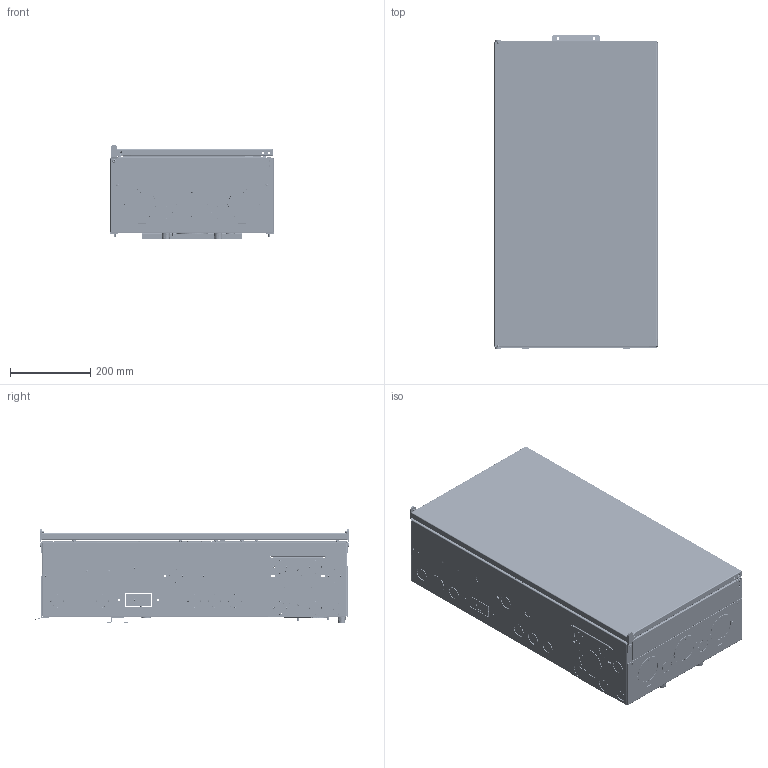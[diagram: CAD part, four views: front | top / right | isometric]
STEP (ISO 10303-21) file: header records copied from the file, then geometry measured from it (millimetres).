
FILE_DESCRIPTION (( 'STEP AP203' ), '1' );
FILE_NAME ('PDP (WHT) 100-2010-01-01.STEP', '2014-06-13T17:10:02', ( '' ), ( '' ), 'SwSTEP 2.0', 'SolidWorks 2013', '' );
FILE_SCHEMA (( 'CONFIG_CONTROL_DESIGN' ));
Length unit declared in the file: millimetre
Products named in the file (46): 061-0036-01_FW 0.19; 100-0659-01-01_100-0659-01-01; 066-0226-04; 210-0572-02-01; 060-0153-01; 210-0854-01-01; 060-6001-04; 210-0794-01-01; 210-0562-01-01; 210-0571-02-01; 20-5204-00; 210-0564-02-01; 100-1185-01-01; 100-0662-01-01; PDP (WHT) 100-2010-01-01; 060-0152-01_CR-FHM1 0.164-32x0.5x0.5-N; 210-0567-02-01; 210-0570-02-01; 210-4229-01-01; 210-2240-01-01; 100-0653-02-01; 210-0970-02-01; 220-2226-01-01_stretched; 3097_off; 230-1007-01-02-5; 210-0791-02-01; 210-0790-02-01; 414-0002-01-01; 3097; 210-2239-01-01; 042-9011-05; 20-6240-00; 210-0805-01-01; 390-0014-01-01; 060-2008-01_CR-PHMS 0.19-24x0.375x0.375-N; 060-0130-05_CR-PHMS 0.19-32x0.25x0.25-N; 20-5205-00; 100-2008-01-01; 395-0001-01-01; 210-0569-02-01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
Assembly tree (122 placements, depth 3):
  PDP (WHT) 100-2010-01-01
    100-2008-01-01
      210-0567-02-01
      210-0970-02-01
      210-0790-02-01
      20-6240-00  x12
    100-0653-02-01
      210-0566-02-01
      210-0572-02-01
      210-0571-02-01
      060-0152-01_CR-FHM1 0.164-32x0.5x0.5-N  x4
    100-0658-01-01_100-0658-01-01  x2
      210-0791-02-01
      042-9011-05
      060-0130-05_CR-PHMS 0.19-32x0.25x0.25-N
    100-0659-01-01_100-0659-01-01  x2
      210-0791-02-01
      042-9011-05
      060-0130-05_CR-PHMS 0.19-32x0.25x0.25-N
    100-0662-01-01
      210-0794-01-01
      042-9011-05  x3
      060-0130-05_CR-PHMS 0.19-32x0.25x0.25-N  x3
    100-1185-01-01
      210-2240-01-01
      230-1007-01-02-5  x4
      210-2239-01-01
      060-2008-01_CR-PHMS 0.19-24x0.375x0.375-N  x4
      062-0034-01_MSHXNUT 0.190-32-S-N  x6
      061-0036-01_FW 0.19  x2
      060-6001-04
    210-4229-01-01  x2
    3097_off  x2
    3097
    390-0014-01-01
    210-0569-02-01
    210-0568-02-01
    210-0854-01-01
    210-0564-02-01
    210-0570-02-01  x2
    220-2226-01-01_stretched
    414-0002-01-01
    210-0805-01-01
    395-0001-01-01
    370-0001-01-01
    20-6240-00  x4
    061-0036-01_FW 0.19  x2
    060-0153-01  x2
    20-5204-00  x2
    20-5205-00  x2
    060-0086-04_CR-PHMS 0.19-32x0.625x0.625-N  x2
    062-0034-01_MSHXNUT 0.190-32-S-N  x6
    060-2008-01_CR-PHMS 0.19-24x0.375x0.375-N  x17
    066-0226-04  x2
    210-0562-01-01
    060-6001-04
Bounding box: 409 x 781.59 x 235.3 mm (x, y, z)
Volume: 3223789 mm3; surface area: 3622179.9 mm2
Topology: 192 solids, 192 shells, 8930 faces, 22177 edges, 13150 vertices
Faces by surface type: plane 3961, cylinder 3489, sphere 1090, cone 224, torus 126, bspline 40
Entity records: 186248 total; most frequent: CARTESIAN_POINT 38622, DIRECTION 30811, ORIENTED_EDGE 28262, EDGE_CURVE 14131, AXIS2_PLACEMENT_3D 11408, VERTEX_POINT 8670, VECTOR 7995, LINE 7995
